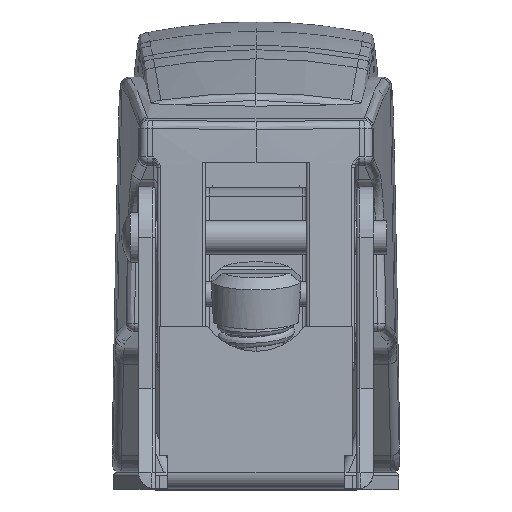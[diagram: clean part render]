
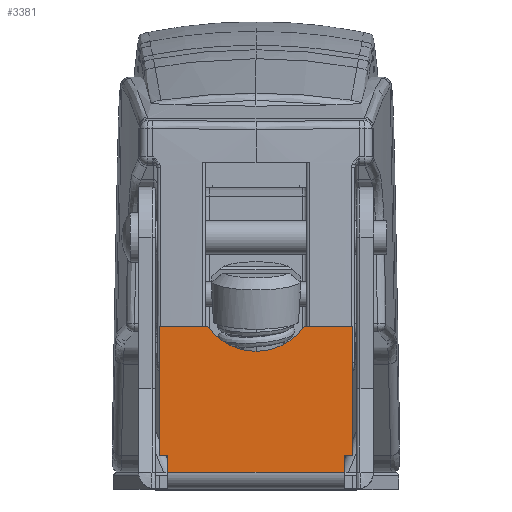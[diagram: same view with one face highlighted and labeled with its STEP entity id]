
A CAD part, top view. The second image highlights one B-rep face of the part: STEP entity #3381.
In plain terms, the highlighted planar face has unit normal (0, 0, 1).
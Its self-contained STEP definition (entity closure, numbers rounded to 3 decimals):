
#1=DIRECTION('',(-1.,0.,0.));
#2=VECTOR('',#1,10.5);
#3=CARTESIAN_POINT('',(5.25,0.,1.));
#4=LINE('',#3,#2);
#5=DIRECTION('',(0.,-1.,0.));
#6=VECTOR('',#5,1.);
#7=CARTESIAN_POINT('',(-5.25,1.,1.));
#8=LINE('',#7,#6);
#9=DIRECTION('',(1.,0.,0.));
#10=VECTOR('',#9,0.5);
#11=CARTESIAN_POINT('',(-5.75,1.,1.));
#12=LINE('',#11,#10);
#13=DIRECTION('',(0.,-1.,0.));
#14=VECTOR('',#13,7.7);
#15=CARTESIAN_POINT('',(-5.75,8.7,1.));
#16=LINE('',#15,#14);
#17=DIRECTION('',(-1.,0.,0.));
#18=VECTOR('',#17,2.878);
#19=CARTESIAN_POINT('',(-2.872,8.7,1.));
#20=LINE('',#19,#18);
#21=CARTESIAN_POINT('',(0.,10.7,1.));
#22=DIRECTION('',(0.,0.,-1.));
#23=DIRECTION('',(0.821,-0.571,0.));
#24=AXIS2_PLACEMENT_3D('',#21,#22,#23);
#26=DIRECTION('',(-1.,0.,0.));
#27=VECTOR('',#26,2.878);
#28=CARTESIAN_POINT('',(5.75,8.7,1.));
#29=LINE('',#28,#27);
#30=DIRECTION('',(0.,1.,0.));
#31=VECTOR('',#30,7.7);
#32=CARTESIAN_POINT('',(5.75,1.,1.));
#33=LINE('',#32,#31);
#34=DIRECTION('',(1.,0.,0.));
#35=VECTOR('',#34,0.5);
#36=CARTESIAN_POINT('',(5.25,1.,1.));
#37=LINE('',#36,#35);
#38=DIRECTION('',(0.,1.,0.));
#39=VECTOR('',#38,1.);
#40=CARTESIAN_POINT('',(5.25,0.,1.));
#41=LINE('',#40,#39);
#2663=CARTESIAN_POINT('',(2.872,8.7,1.));
#2664=CARTESIAN_POINT('',(-2.872,8.7,1.));
#2665=VERTEX_POINT('',#2663);
#2666=VERTEX_POINT('',#2664);
#2667=CARTESIAN_POINT('',(5.75,8.7,1.));
#2668=VERTEX_POINT('',#2667);
#2669=CARTESIAN_POINT('',(5.75,1.,1.));
#2670=VERTEX_POINT('',#2669);
#2690=CARTESIAN_POINT('',(5.25,0.,1.));
#2691=CARTESIAN_POINT('',(-5.25,0.,1.));
#2692=VERTEX_POINT('',#2690);
#2693=VERTEX_POINT('',#2691);
#2714=CARTESIAN_POINT('',(-5.75,8.7,1.));
#2715=CARTESIAN_POINT('',(-5.75,1.,1.));
#2716=VERTEX_POINT('',#2714);
#2717=VERTEX_POINT('',#2715);
#2891=CARTESIAN_POINT('',(-5.25,1.,1.));
#2892=VERTEX_POINT('',#2891);
#2893=CARTESIAN_POINT('',(5.25,1.,1.));
#2894=VERTEX_POINT('',#2893);
#3354=CARTESIAN_POINT('',(0.,-22.5,1.));
#3355=DIRECTION('',(0.,0.,1.));
#3356=DIRECTION('',(0.,-1.,0.));
#3357=AXIS2_PLACEMENT_3D('',#3354,#3355,#3356);
#3358=PLANE('',#3357);
#3360=ORIENTED_EDGE('',*,*,#3359,.T.);
#3362=ORIENTED_EDGE('',*,*,#3361,.F.);
#3364=ORIENTED_EDGE('',*,*,#3363,.F.);
#3366=ORIENTED_EDGE('',*,*,#3365,.F.);
#3368=ORIENTED_EDGE('',*,*,#3367,.F.);
#3370=ORIENTED_EDGE('',*,*,#3369,.F.);
#3372=ORIENTED_EDGE('',*,*,#3371,.F.);
#3374=ORIENTED_EDGE('',*,*,#3373,.F.);
#3376=ORIENTED_EDGE('',*,*,#3375,.F.);
#3378=ORIENTED_EDGE('',*,*,#3377,.F.);
#3379=EDGE_LOOP('',(#3360,#3362,#3364,#3366,#3368,#3370,#3372,#3374,#3376,
#3378));
#3380=FACE_OUTER_BOUND('',#3379,.F.);
#3381=ADVANCED_FACE('',(#3380),#3358,.T.);
#25=CIRCLE('',#24,3.5);
#3359=EDGE_CURVE('',#2692,#2693,#4,.T.);
#3361=EDGE_CURVE('',#2892,#2693,#8,.T.);
#3363=EDGE_CURVE('',#2717,#2892,#12,.T.);
#3365=EDGE_CURVE('',#2716,#2717,#16,.T.);
#3367=EDGE_CURVE('',#2666,#2716,#20,.T.);
#3369=EDGE_CURVE('',#2665,#2666,#25,.T.);
#3371=EDGE_CURVE('',#2668,#2665,#29,.T.);
#3373=EDGE_CURVE('',#2670,#2668,#33,.T.);
#3375=EDGE_CURVE('',#2894,#2670,#37,.T.);
#3377=EDGE_CURVE('',#2692,#2894,#41,.T.);
